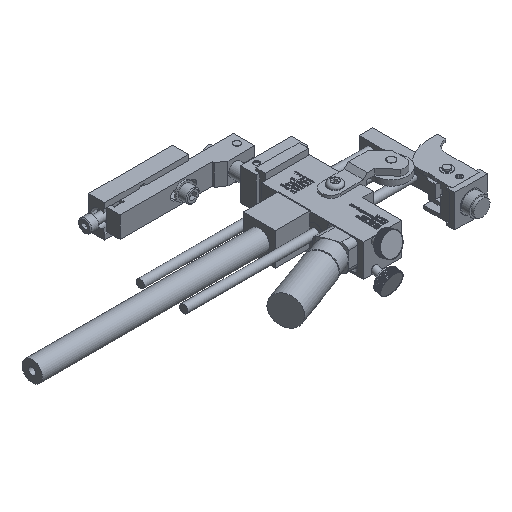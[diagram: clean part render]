
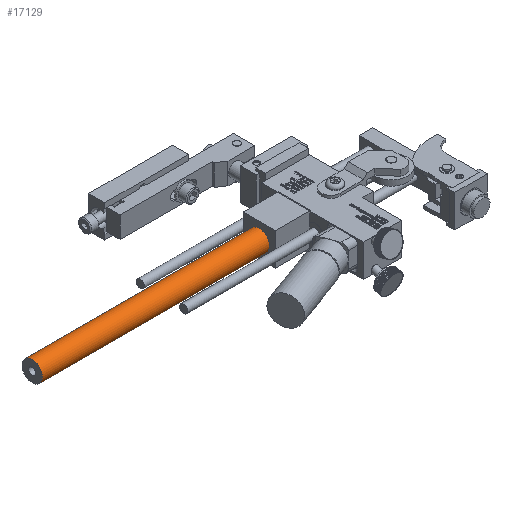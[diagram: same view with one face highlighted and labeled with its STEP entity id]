
A CAD part, isometric view. The second image highlights one B-rep face of the part: STEP entity #17129.
In plain terms, the highlighted cylindrical face has radius 5.969 mm (diameter 11.938 mm), a full revolution.
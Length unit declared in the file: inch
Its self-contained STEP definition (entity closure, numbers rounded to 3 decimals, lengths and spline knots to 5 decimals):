
#17102=CARTESIAN_POINT('',(-1.4815,0.8125,0.375));
#17103=DIRECTION('',(-1.0,0.,0.));
#17104=DIRECTION('',(0.0,0.0,-1.0));
#17105=AXIS2_PLACEMENT_3D('',#17102,#17103,#17104);
#17106=CYLINDRICAL_SURFACE('',#17105,0.235);
#17107=CARTESIAN_POINT('',(-6.7315,0.8125,0.61));
#17108=VERTEX_POINT('',#17107);
#17109=CARTESIAN_POINT('',(-6.7315,0.8125,0.375));
#17110=DIRECTION('',(1.0,0.0,0.0));
#17111=DIRECTION('',(0.0,0.0,-1.0));
#17112=AXIS2_PLACEMENT_3D('',#17109,#17110,#17111);
#17113=CIRCLE('',#17112,0.235);
#17114=EDGE_CURVE('',#17108,#17108,#17113,.T.);
#17115=ORIENTED_EDGE('',*,*,#17114,.T.);
#17116=EDGE_LOOP('',(#17115));
#17117=FACE_OUTER_BOUND('',#17116,.T.);
#17118=CARTESIAN_POINT('',(-1.4815,0.8125,0.61));
#17119=VERTEX_POINT('',#17118);
#17120=CARTESIAN_POINT('',(-1.4815,0.8125,0.375));
#17121=DIRECTION('',(1.0,0.0,0.0));
#17122=DIRECTION('',(0.0,0.0,-1.0));
#17123=AXIS2_PLACEMENT_3D('',#17120,#17121,#17122);
#17124=CIRCLE('',#17123,0.235);
#17125=EDGE_CURVE('',#17119,#17119,#17124,.T.);
#17126=ORIENTED_EDGE('',*,*,#17125,.F.);
#17127=EDGE_LOOP('',(#17126));
#17128=FACE_BOUND('',#17127,.T.);
#17129=ADVANCED_FACE('',(#17117,#17128),#17106,.T.);
